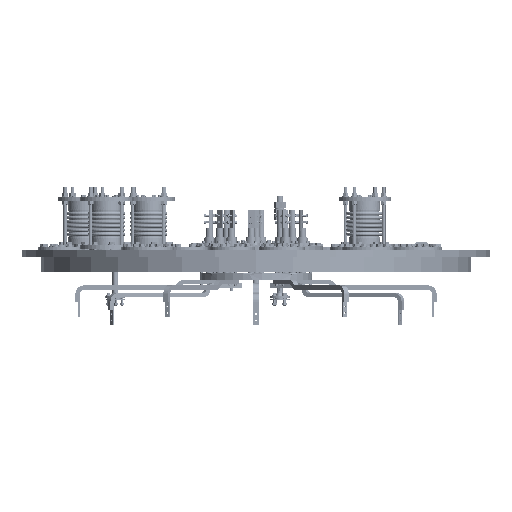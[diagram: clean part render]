
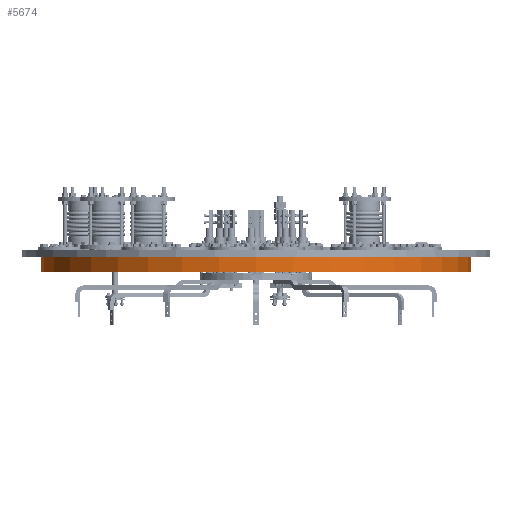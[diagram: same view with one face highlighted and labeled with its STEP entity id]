
A CAD part, front view. The second image highlights one B-rep face of the part: STEP entity #5674.
In plain terms, the highlighted cylindrical face has radius 990 mm (diameter 1980 mm), a partial arc.
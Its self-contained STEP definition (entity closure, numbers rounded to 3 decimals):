
#420=CARTESIAN_POINT('Vertex',(-990.,0.,-70.)) ;
#422=CARTESIAN_POINT('Vertex',(990.,0.,-70.)) ;
#425=CARTESIAN_POINT('Axis2P3D Location',(0.,0.,-70.)) ;
#5632=CARTESIAN_POINT('Axis2P3D Location',(0.,0.,-35.)) ;
#5637=CARTESIAN_POINT('Line Origine',(-990.,0.,-35.)) ;
#5641=CARTESIAN_POINT('Vertex',(-990.,0.,0.)) ;
#5648=CARTESIAN_POINT('Vertex',(990.,0.,0.)) ;
#5651=CARTESIAN_POINT('Line Origine',(990.,0.,-35.)) ;
#5663=CARTESIAN_POINT('Axis2P3D Location',(0.,0.,0.)) ;
#426=DIRECTION('Axis2P3D Direction',(0.,0.,-1.)) ;
#5633=DIRECTION('Axis2P3D Direction',(0.,0.,-1.)) ;
#5634=DIRECTION('Axis2P3D XDirection',(1.,0.,0.)) ;
#5638=DIRECTION('Vector Direction',(0.,0.,-1.)) ;
#5652=DIRECTION('Vector Direction',(0.,0.,-1.)) ;
#5664=DIRECTION('Axis2P3D Direction',(0.,0.,-1.)) ;
#427=AXIS2_PLACEMENT_3D('Circle Axis2P3D',#425,#426,$) ;
#5635=AXIS2_PLACEMENT_3D('Cylinder Axis2P3D',#5632,#5633,#5634) ;
#5665=AXIS2_PLACEMENT_3D('Circle Axis2P3D',#5663,#5664,$) ;
#5669=ORIENTED_EDGE('',*,*,#5655,.F.) ;
#5670=ORIENTED_EDGE('',*,*,#5667,.T.) ;
#5671=ORIENTED_EDGE('',*,*,#5643,.T.) ;
#5672=ORIENTED_EDGE('',*,*,#429,.F.) ;
#5639=VECTOR('Line Direction',#5638,1.) ;
#5653=VECTOR('Line Direction',#5652,1.) ;
#5674=ADVANCED_FACE('PartBody',(#5673),#5636,.T.) ;
#428=CIRCLE('generated circle',#427,990.) ;
#5666=CIRCLE('generated circle',#5665,990.) ;
#5636=CYLINDRICAL_SURFACE('generated cylinder',#5635,990.) ;
#429=EDGE_CURVE('',#423,#421,#428,.T.) ;
#5643=EDGE_CURVE('',#5642,#421,#5640,.T.) ;
#5655=EDGE_CURVE('',#5649,#423,#5654,.T.) ;
#5667=EDGE_CURVE('',#5649,#5642,#5666,.T.) ;
#5668=EDGE_LOOP('',(#5669,#5670,#5671,#5672)) ;
#5673=FACE_OUTER_BOUND('',#5668,.T.) ;
#5640=LINE('Line',#5637,#5639) ;
#5654=LINE('Line',#5651,#5653) ;
#421=VERTEX_POINT('',#420) ;
#423=VERTEX_POINT('',#422) ;
#5642=VERTEX_POINT('',#5641) ;
#5649=VERTEX_POINT('',#5648) ;
